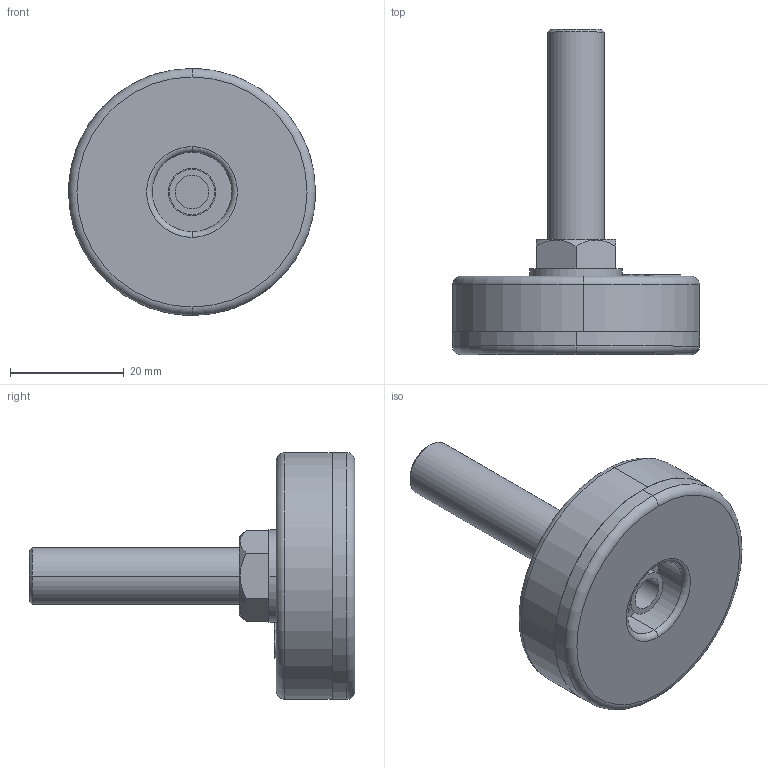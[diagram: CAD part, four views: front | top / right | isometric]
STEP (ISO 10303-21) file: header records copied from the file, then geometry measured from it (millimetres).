
FILE_DESCRIPTION (( 'STEP AP203' ), '1' );
FILE_NAME ('R-40-1037-TPU.STEP', '2020-09-11T02:22:55', ( '' ), ( '' ), 'SwSTEP 2.0', 'SolidWorks 2016', '' );
FILE_SCHEMA (( 'CONFIG_CONTROL_DESIGN' ));
Length unit declared in the file: millimetre
Products named in the file (4): 穩諉蹟裝M10炵蹈_M10X37; S倰覃誹褐_40裔赽; S倰覃誹褐_40菁菜; R-40-1037-TPU
Assembly tree (3 placements, depth 2):
  R-40-1037-TPU
    S倰覃誹褐_40菁菜
    S倰覃誹褐_40裔赽
    穩諉蹟裝M10炵蹈_M10X37
Bounding box: 43.5 x 57.3 x 43.5 mm (x, y, z)
Volume: 13423 mm3; surface area: 13413.4 mm2
Topology: 3 solids, 3 shells, 121 faces, 290 edges, 190 vertices
Faces by surface type: plane 69, cylinder 28, bspline 12, torus 8, cone 4
Entity records: 4790 total; most frequent: CARTESIAN_POINT 1559, DIRECTION 580, ORIENTED_EDGE 580, EDGE_CURVE 290, AXIS2_PLACEMENT_3D 207, VERTEX_POINT 190, LINE 166, VECTOR 166
